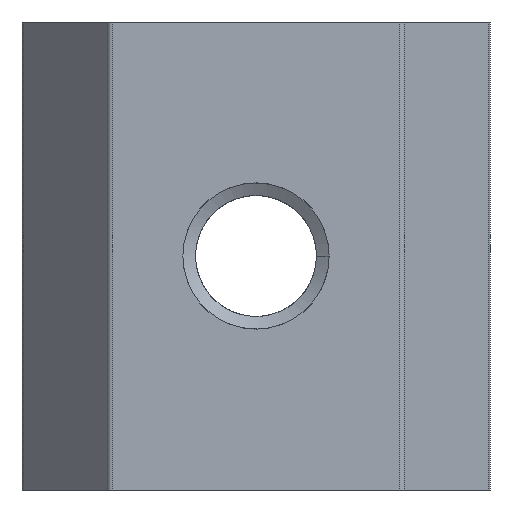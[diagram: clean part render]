
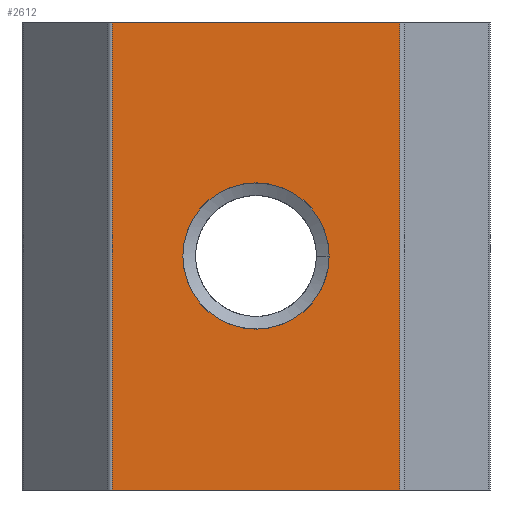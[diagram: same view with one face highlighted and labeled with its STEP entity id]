
A CAD part, front view. The second image highlights one B-rep face of the part: STEP entity #2612.
In plain terms, the highlighted planar face has unit normal (0, -1, 0).
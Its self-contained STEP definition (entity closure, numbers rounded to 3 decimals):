
#8 = VERTEX_POINT ( 'NONE', #1682 ) ;
#73 = CARTESIAN_POINT ( 'NONE',  ( 0., -6., 0. ) ) ;
#137 = FACE_OUTER_BOUND ( 'NONE', #2270, .T. ) ;
#231 = CARTESIAN_POINT ( 'NONE',  ( -2.5, -6., 0. ) ) ;
#257 = EDGE_CURVE ( 'NONE', #2765, #2087, #1375, .T. ) ;
#355 = CIRCLE ( 'NONE', #568, 2.5 ) ;
#375 = LINE ( 'NONE', #1686, #3219 ) ;
#408 = DIRECTION ( 'NONE',  ( 0., 0., 1. ) ) ;
#449 = EDGE_CURVE ( 'NONE', #2149, #3304, #1432, .T. ) ;
#458 = EDGE_LOOP ( 'NONE', ( #1770, #1191 ) ) ;
#568 = AXIS2_PLACEMENT_3D ( 'NONE', #2064, #807, #1312 ) ;
#649 = FACE_BOUND ( 'NONE', #458, .T. ) ;
#689 = EDGE_CURVE ( 'NONE', #2087, #2765, #355, .T. ) ;
#807 = DIRECTION ( 'NONE',  ( 0., 1., 0. ) ) ;
#969 = LINE ( 'NONE', #1514, #2570 ) ;
#1014 = CARTESIAN_POINT ( 'NONE',  ( -4.908, -6., 8. ) ) ;
#1081 = ORIENTED_EDGE ( 'NONE', *, *, #1569, .T. ) ;
#1105 = ORIENTED_EDGE ( 'NONE', *, *, #449, .T. ) ;
#1154 = VECTOR ( 'NONE', #408, 1000. ) ;
#1191 = ORIENTED_EDGE ( 'NONE', *, *, #689, .T. ) ;
#1294 = PLANE ( 'NONE',  #1577 ) ;
#1312 = DIRECTION ( 'NONE',  ( -1., 0., 0. ) ) ;
#1375 = CIRCLE ( 'NONE', #1930, 2.5 ) ;
#1432 = LINE ( 'NONE', #1905, #1154 ) ;
#1502 = DIRECTION ( 'NONE',  ( 1., 0., 0. ) ) ;
#1514 = CARTESIAN_POINT ( 'NONE',  ( 5., -6., 8. ) ) ;
#1569 = EDGE_CURVE ( 'NONE', #8, #3055, #2757, .T. ) ;
#1577 = AXIS2_PLACEMENT_3D ( 'NONE', #3118, #1644, #2144 ) ;
#1644 = DIRECTION ( 'NONE',  ( 0., 1., 0. ) ) ;
#1649 = CARTESIAN_POINT ( 'NONE',  ( 4.908, -6., 8. ) ) ;
#1682 = CARTESIAN_POINT ( 'NONE',  ( -4.908, -6., 8. ) ) ;
#1686 = CARTESIAN_POINT ( 'NONE',  ( 5., -6., -8. ) ) ;
#1770 = ORIENTED_EDGE ( 'NONE', *, *, #257, .T. ) ;
#1851 = DIRECTION ( 'NONE',  ( -1., 0., 0. ) ) ;
#1905 = CARTESIAN_POINT ( 'NONE',  ( 4.908, -6., 8. ) ) ;
#1930 = AXIS2_PLACEMENT_3D ( 'NONE', #73, #2342, #1851 ) ;
#2054 = VECTOR ( 'NONE', #3324, 1000. ) ;
#2064 = CARTESIAN_POINT ( 'NONE',  ( 0., -6., 0. ) ) ;
#2087 = VERTEX_POINT ( 'NONE', #231 ) ;
#2144 = DIRECTION ( 'NONE',  ( -1., 0., 0. ) ) ;
#2149 = VERTEX_POINT ( 'NONE', #3318 ) ;
#2265 = ORIENTED_EDGE ( 'NONE', *, *, #2842, .F. ) ;
#2270 = EDGE_LOOP ( 'NONE', ( #2265, #1081, #3113, #1105 ) ) ;
#2342 = DIRECTION ( 'NONE',  ( 0., 1., 0. ) ) ;
#2570 = VECTOR ( 'NONE', #1502, 1000. ) ;
#2612 = ADVANCED_FACE ( 'NONE', ( #649, #137 ), #1294, .F. ) ;
#2631 = CARTESIAN_POINT ( 'NONE',  ( -4.908, -6., -8. ) ) ;
#2674 = EDGE_CURVE ( 'NONE', #3055, #2149, #375, .T. ) ;
#2757 = LINE ( 'NONE', #1014, #2054 ) ;
#2765 = VERTEX_POINT ( 'NONE', #2978 ) ;
#2842 = EDGE_CURVE ( 'NONE', #8, #3304, #969, .T. ) ;
#2978 = CARTESIAN_POINT ( 'NONE',  ( 2.5, -6., 0. ) ) ;
#3055 = VERTEX_POINT ( 'NONE', #2631 ) ;
#3113 = ORIENTED_EDGE ( 'NONE', *, *, #2674, .T. ) ;
#3118 = CARTESIAN_POINT ( 'NONE',  ( 5., -6., 8. ) ) ;
#3219 = VECTOR ( 'NONE', #3243, 1000. ) ;
#3243 = DIRECTION ( 'NONE',  ( 1., 0., 0. ) ) ;
#3304 = VERTEX_POINT ( 'NONE', #1649 ) ;
#3318 = CARTESIAN_POINT ( 'NONE',  ( 4.908, -6., -8. ) ) ;
#3324 = DIRECTION ( 'NONE',  ( 0., 0., -1. ) ) ;
